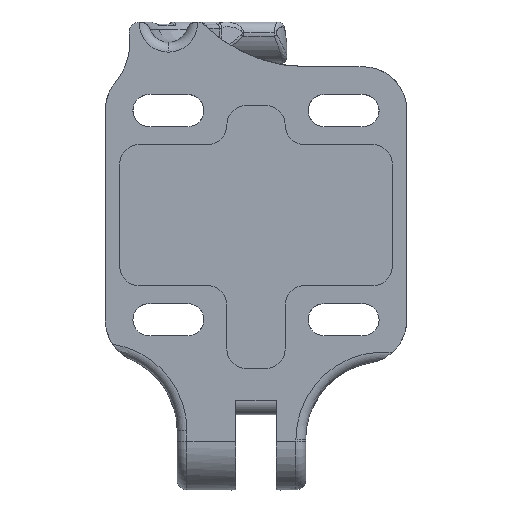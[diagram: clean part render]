
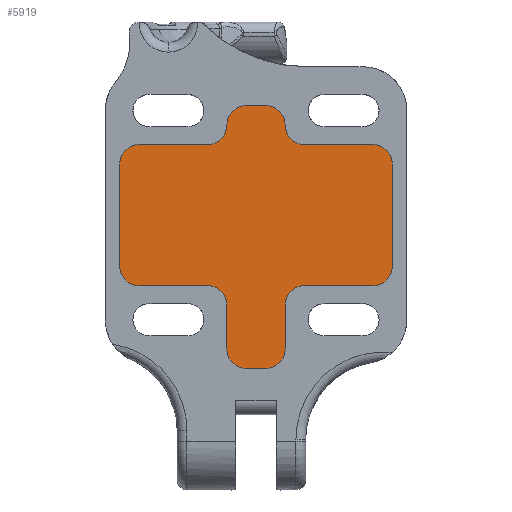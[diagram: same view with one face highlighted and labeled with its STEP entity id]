
A CAD part, front view. The second image highlights one B-rep face of the part: STEP entity #5919.
In plain terms, the highlighted planar face has unit normal (0, -1, 0).
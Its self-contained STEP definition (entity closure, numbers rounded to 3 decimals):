
#2263=AXIS2_PLACEMENT_3D('Circle Axis2P3D',#2261,#2262,$) ;
#2311=AXIS2_PLACEMENT_3D('Circle Axis2P3D',#2309,#2310,$) ;
#2359=AXIS2_PLACEMENT_3D('Circle Axis2P3D',#2357,#2358,$) ;
#2407=AXIS2_PLACEMENT_3D('Circle Axis2P3D',#2405,#2406,$) ;
#2455=AXIS2_PLACEMENT_3D('Circle Axis2P3D',#2453,#2454,$) ;
#2503=AXIS2_PLACEMENT_3D('Circle Axis2P3D',#2501,#2502,$) ;
#2551=AXIS2_PLACEMENT_3D('Circle Axis2P3D',#2549,#2550,$) ;
#2599=AXIS2_PLACEMENT_3D('Circle Axis2P3D',#2597,#2598,$) ;
#2623=AXIS2_PLACEMENT_3D('Circle Axis2P3D',#2621,#2622,$) ;
#2671=AXIS2_PLACEMENT_3D('Circle Axis2P3D',#2669,#2670,$) ;
#2695=AXIS2_PLACEMENT_3D('Circle Axis2P3D',#2693,#2694,$) ;
#2743=AXIS2_PLACEMENT_3D('Circle Axis2P3D',#2741,#2742,$) ;
#5893=AXIS2_PLACEMENT_3D('Plane Axis2P3D',#5890,#5891,#5892) ;
#2251=CARTESIAN_POINT('Vertex',(12.,-6.4,16.)) ;
#2258=CARTESIAN_POINT('Vertex',(14.,-6.4,18.)) ;
#2261=CARTESIAN_POINT('Axis2P3D Location',(12.,-6.4,18.)) ;
#2282=CARTESIAN_POINT('Vertex',(5.,-6.4,16.)) ;
#2285=CARTESIAN_POINT('Line Origine',(8.5,-6.4,16.)) ;
#2306=CARTESIAN_POINT('Vertex',(3.,-6.4,14.)) ;
#2309=CARTESIAN_POINT('Axis2P3D Location',(5.,-6.4,14.)) ;
#2330=CARTESIAN_POINT('Vertex',(3.,-6.4,9.5)) ;
#2333=CARTESIAN_POINT('Line Origine',(3.,-6.4,11.75)) ;
#2354=CARTESIAN_POINT('Vertex',(1.,-6.4,7.5)) ;
#2357=CARTESIAN_POINT('Axis2P3D Location',(1.,-6.4,9.5)) ;
#2378=CARTESIAN_POINT('Vertex',(-1.,-6.4,7.5)) ;
#2381=CARTESIAN_POINT('Line Origine',(0.,-6.4,7.5)) ;
#2402=CARTESIAN_POINT('Vertex',(-3.,-6.4,9.5)) ;
#2405=CARTESIAN_POINT('Axis2P3D Location',(-1.,-6.4,9.5)) ;
#2426=CARTESIAN_POINT('Vertex',(-3.,-6.4,14.)) ;
#2429=CARTESIAN_POINT('Line Origine',(-3.,-6.4,11.75)) ;
#2450=CARTESIAN_POINT('Vertex',(-5.,-6.4,16.)) ;
#2453=CARTESIAN_POINT('Axis2P3D Location',(-5.,-6.4,14.)) ;
#2474=CARTESIAN_POINT('Vertex',(-12.,-6.4,16.)) ;
#2477=CARTESIAN_POINT('Line Origine',(-8.5,-6.4,16.)) ;
#2498=CARTESIAN_POINT('Vertex',(-14.,-6.4,18.)) ;
#2501=CARTESIAN_POINT('Axis2P3D Location',(-12.,-6.4,18.)) ;
#2522=CARTESIAN_POINT('Vertex',(-14.,-6.4,28.5)) ;
#2525=CARTESIAN_POINT('Line Origine',(-14.,-6.4,23.25)) ;
#2546=CARTESIAN_POINT('Vertex',(-12.,-6.4,30.5)) ;
#2549=CARTESIAN_POINT('Axis2P3D Location',(-12.,-6.4,28.5)) ;
#2570=CARTESIAN_POINT('Vertex',(-5.,-6.4,30.5)) ;
#2573=CARTESIAN_POINT('Line Origine',(-8.5,-6.4,30.5)) ;
#2594=CARTESIAN_POINT('Vertex',(-3.,-6.4,32.5)) ;
#2597=CARTESIAN_POINT('Axis2P3D Location',(-5.,-6.4,32.5)) ;
#2618=CARTESIAN_POINT('Vertex',(-1.,-6.4,34.5)) ;
#2621=CARTESIAN_POINT('Axis2P3D Location',(-1.,-6.4,32.5)) ;
#2642=CARTESIAN_POINT('Vertex',(1.,-6.4,34.5)) ;
#2645=CARTESIAN_POINT('Line Origine',(0.,-6.4,34.5)) ;
#2666=CARTESIAN_POINT('Vertex',(3.,-6.4,32.5)) ;
#2669=CARTESIAN_POINT('Axis2P3D Location',(1.,-6.4,32.5)) ;
#2690=CARTESIAN_POINT('Vertex',(5.,-6.4,30.5)) ;
#2693=CARTESIAN_POINT('Axis2P3D Location',(5.,-6.4,32.5)) ;
#2714=CARTESIAN_POINT('Vertex',(12.,-6.4,30.5)) ;
#2717=CARTESIAN_POINT('Line Origine',(8.5,-6.4,30.5)) ;
#2738=CARTESIAN_POINT('Vertex',(14.,-6.4,28.5)) ;
#2741=CARTESIAN_POINT('Axis2P3D Location',(12.,-6.4,28.5)) ;
#2758=CARTESIAN_POINT('Line Origine',(14.,-6.4,23.25)) ;
#5890=CARTESIAN_POINT('Axis2P3D Location',(0.,-6.4,0.)) ;
#2262=DIRECTION('Axis2P3D Direction',(0.,-1.,-0.)) ;
#2286=DIRECTION('Vector Direction',(-1.,0.,0.)) ;
#2310=DIRECTION('Axis2P3D Direction',(0.,-1.,0.)) ;
#2334=DIRECTION('Vector Direction',(0.,0.,-1.)) ;
#2358=DIRECTION('Axis2P3D Direction',(0.,-1.,-0.)) ;
#2382=DIRECTION('Vector Direction',(-1.,0.,0.)) ;
#2406=DIRECTION('Axis2P3D Direction',(0.,-1.,0.)) ;
#2430=DIRECTION('Vector Direction',(0.,0.,1.)) ;
#2454=DIRECTION('Axis2P3D Direction',(0.,-1.,0.)) ;
#2478=DIRECTION('Vector Direction',(-1.,0.,0.)) ;
#2502=DIRECTION('Axis2P3D Direction',(0.,-1.,0.)) ;
#2526=DIRECTION('Vector Direction',(0.,0.,1.)) ;
#2550=DIRECTION('Axis2P3D Direction',(0.,-1.,0.)) ;
#2574=DIRECTION('Vector Direction',(1.,0.,0.)) ;
#2598=DIRECTION('Axis2P3D Direction',(0.,-1.,-0.)) ;
#2622=DIRECTION('Axis2P3D Direction',(0.,-1.,0.)) ;
#2646=DIRECTION('Vector Direction',(1.,0.,0.)) ;
#2670=DIRECTION('Axis2P3D Direction',(0.,-1.,0.)) ;
#2694=DIRECTION('Axis2P3D Direction',(0.,-1.,0.)) ;
#2718=DIRECTION('Vector Direction',(1.,0.,0.)) ;
#2742=DIRECTION('Axis2P3D Direction',(0.,-1.,0.)) ;
#2759=DIRECTION('Vector Direction',(0.,0.,-1.)) ;
#5891=DIRECTION('Axis2P3D Direction',(0.,-1.,0.)) ;
#5892=DIRECTION('Axis2P3D XDirection',(1.,0.,0.)) ;
#2287=VECTOR('Line Direction',#2286,1.) ;
#2335=VECTOR('Line Direction',#2334,1.) ;
#2383=VECTOR('Line Direction',#2382,1.) ;
#2431=VECTOR('Line Direction',#2430,1.) ;
#2479=VECTOR('Line Direction',#2478,1.) ;
#2527=VECTOR('Line Direction',#2526,1.) ;
#2575=VECTOR('Line Direction',#2574,1.) ;
#2647=VECTOR('Line Direction',#2646,1.) ;
#2719=VECTOR('Line Direction',#2718,1.) ;
#2760=VECTOR('Line Direction',#2759,1.) ;
#5896=ORIENTED_EDGE('',*,*,#2745,.T.) ;
#5897=ORIENTED_EDGE('',*,*,#2721,.T.) ;
#5898=ORIENTED_EDGE('',*,*,#2697,.T.) ;
#5899=ORIENTED_EDGE('',*,*,#2673,.T.) ;
#5900=ORIENTED_EDGE('',*,*,#2649,.T.) ;
#5901=ORIENTED_EDGE('',*,*,#2625,.T.) ;
#5902=ORIENTED_EDGE('',*,*,#2601,.T.) ;
#5903=ORIENTED_EDGE('',*,*,#2577,.T.) ;
#5904=ORIENTED_EDGE('',*,*,#2553,.T.) ;
#5905=ORIENTED_EDGE('',*,*,#2529,.T.) ;
#5906=ORIENTED_EDGE('',*,*,#2505,.T.) ;
#5907=ORIENTED_EDGE('',*,*,#2481,.T.) ;
#5908=ORIENTED_EDGE('',*,*,#2457,.T.) ;
#5909=ORIENTED_EDGE('',*,*,#2433,.T.) ;
#5910=ORIENTED_EDGE('',*,*,#2409,.T.) ;
#5911=ORIENTED_EDGE('',*,*,#2385,.T.) ;
#5912=ORIENTED_EDGE('',*,*,#2361,.T.) ;
#5913=ORIENTED_EDGE('',*,*,#2337,.T.) ;
#5914=ORIENTED_EDGE('',*,*,#2313,.T.) ;
#5915=ORIENTED_EDGE('',*,*,#2289,.T.) ;
#5916=ORIENTED_EDGE('',*,*,#2265,.T.) ;
#5917=ORIENTED_EDGE('',*,*,#2762,.T.) ;
#5919=ADVANCED_FACE('Body2',(#5918),#5894,.T.) ;
#2264=CIRCLE('generated circle',#2263,2.) ;
#2312=CIRCLE('generated circle',#2311,2.) ;
#2360=CIRCLE('generated circle',#2359,2.) ;
#2408=CIRCLE('generated circle',#2407,2.) ;
#2456=CIRCLE('generated circle',#2455,2.) ;
#2504=CIRCLE('generated circle',#2503,2.) ;
#2552=CIRCLE('generated circle',#2551,2.) ;
#2600=CIRCLE('generated circle',#2599,2.) ;
#2624=CIRCLE('generated circle',#2623,2.) ;
#2672=CIRCLE('generated circle',#2671,2.) ;
#2696=CIRCLE('generated circle',#2695,2.) ;
#2744=CIRCLE('generated circle',#2743,2.) ;
#2265=EDGE_CURVE('',#2252,#2259,#2264,.T.) ;
#2289=EDGE_CURVE('',#2283,#2252,#2288,.F.) ;
#2313=EDGE_CURVE('',#2307,#2283,#2312,.F.) ;
#2337=EDGE_CURVE('',#2331,#2307,#2336,.F.) ;
#2361=EDGE_CURVE('',#2355,#2331,#2360,.T.) ;
#2385=EDGE_CURVE('',#2379,#2355,#2384,.F.) ;
#2409=EDGE_CURVE('',#2403,#2379,#2408,.T.) ;
#2433=EDGE_CURVE('',#2427,#2403,#2432,.F.) ;
#2457=EDGE_CURVE('',#2451,#2427,#2456,.F.) ;
#2481=EDGE_CURVE('',#2475,#2451,#2480,.F.) ;
#2505=EDGE_CURVE('',#2499,#2475,#2504,.T.) ;
#2529=EDGE_CURVE('',#2523,#2499,#2528,.F.) ;
#2553=EDGE_CURVE('',#2547,#2523,#2552,.T.) ;
#2577=EDGE_CURVE('',#2571,#2547,#2576,.F.) ;
#2601=EDGE_CURVE('',#2595,#2571,#2600,.F.) ;
#2625=EDGE_CURVE('',#2619,#2595,#2624,.T.) ;
#2649=EDGE_CURVE('',#2643,#2619,#2648,.F.) ;
#2673=EDGE_CURVE('',#2667,#2643,#2672,.T.) ;
#2697=EDGE_CURVE('',#2691,#2667,#2696,.F.) ;
#2721=EDGE_CURVE('',#2715,#2691,#2720,.F.) ;
#2745=EDGE_CURVE('',#2739,#2715,#2744,.T.) ;
#2762=EDGE_CURVE('',#2259,#2739,#2761,.F.) ;
#5895=EDGE_LOOP('',(#5896,#5897,#5898,#5899,#5900,#5901,#5902,#5903,#5904,#5905,#5906,#5907,#5908,#5909,#5910,#5911,#5912,#5913,#5914,#5915,#5916,#5917)) ;
#5918=FACE_OUTER_BOUND('',#5895,.T.) ;
#2288=LINE('Line',#2285,#2287) ;
#2336=LINE('Line',#2333,#2335) ;
#2384=LINE('Line',#2381,#2383) ;
#2432=LINE('Line',#2429,#2431) ;
#2480=LINE('Line',#2477,#2479) ;
#2528=LINE('Line',#2525,#2527) ;
#2576=LINE('Line',#2573,#2575) ;
#2648=LINE('Line',#2645,#2647) ;
#2720=LINE('Line',#2717,#2719) ;
#2761=LINE('Line',#2758,#2760) ;
#5894=PLANE('',#5893) ;
#2252=VERTEX_POINT('',#2251) ;
#2259=VERTEX_POINT('',#2258) ;
#2283=VERTEX_POINT('',#2282) ;
#2307=VERTEX_POINT('',#2306) ;
#2331=VERTEX_POINT('',#2330) ;
#2355=VERTEX_POINT('',#2354) ;
#2379=VERTEX_POINT('',#2378) ;
#2403=VERTEX_POINT('',#2402) ;
#2427=VERTEX_POINT('',#2426) ;
#2451=VERTEX_POINT('',#2450) ;
#2475=VERTEX_POINT('',#2474) ;
#2499=VERTEX_POINT('',#2498) ;
#2523=VERTEX_POINT('',#2522) ;
#2547=VERTEX_POINT('',#2546) ;
#2571=VERTEX_POINT('',#2570) ;
#2595=VERTEX_POINT('',#2594) ;
#2619=VERTEX_POINT('',#2618) ;
#2643=VERTEX_POINT('',#2642) ;
#2667=VERTEX_POINT('',#2666) ;
#2691=VERTEX_POINT('',#2690) ;
#2715=VERTEX_POINT('',#2714) ;
#2739=VERTEX_POINT('',#2738) ;
